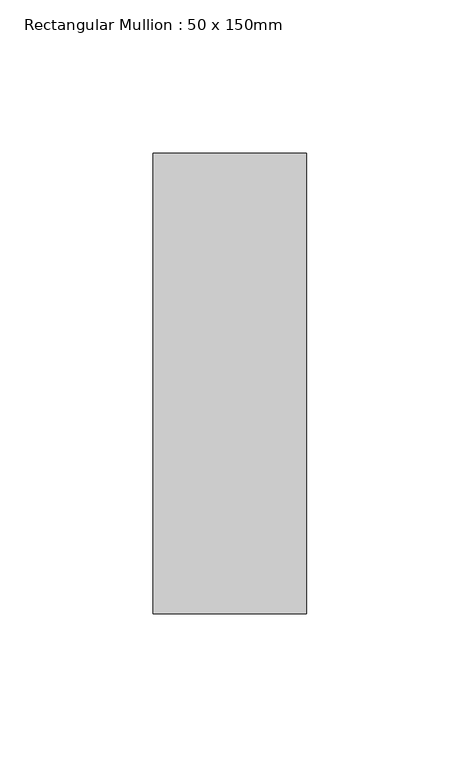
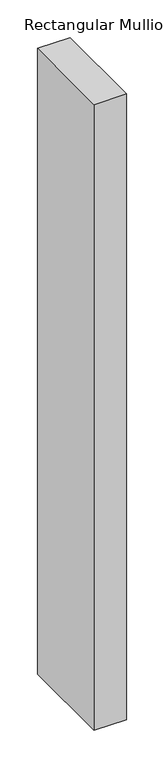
"""IFC4 building model written with IfcOpenShell, lengths in millimetres: member geometry, Rectangular Mullion : 50 x 150mm."""

import ifcopenshell
import ifcopenshell.guid

model = None  # the IFC model being written
_history = None  # IfcOwnerHistory: only IFC2X3 demands one
_inside = {}  # id of a spatial element -> (the spatial element, [elements in it])
_under = {}  # id of a project, library or spatial element -> (it, [spatial elements below it])
_declared = {}  # id of a project -> (the project, [libraries it declares])
_typed = {}  # id of a type object -> (the type object, [elements of that type])
_made_of = {}  # id of a material, layer set ... -> (it, [elements and type objects made of it])


def new_model(schema):
    """Start an empty IFC model of exactly this schema.

    Asked for "IFC4X3", IfcOpenShell would pick the latest addendum, in which some entities
    have other attributes; the version numbers below select the first issue.
    IFC2X3 requires an IfcOwnerHistory on every rooted entity: one is made here for all.
    """
    global model, _history
    if schema == "IFC4X3":
        model = ifcopenshell.file(schema_version=(4, 3, 0, 0))
    else:
        model = ifcopenshell.file(schema=schema)
    _inside.clear()
    _under.clear()
    _declared.clear()
    _typed.clear()
    _made_of.clear()
    _history = None
    if model.schema == "IFC2X3":
        org = make("IfcOrganization", Name="unknown")
        user = make(
            "IfcPersonAndOrganization",
            ThePerson=make("IfcPerson", FamilyName="unknown"),
            TheOrganization=org,
        )
        app = make(
            "IfcApplication",
            ApplicationDeveloper=org,
            Version="unknown",
            ApplicationFullName="unknown",
            ApplicationIdentifier="unknown",
        )
        _history = make(
            "IfcOwnerHistory",
            OwningUser=user,
            OwningApplication=app,
            ChangeAction="ADDED",
            CreationDate=0,
        )
    return model


def make(cls, **values):
    """One entity of the class cls with the attributes given. An attribute that is None is left unset."""
    return model.create_entity(
        cls, **{name: value for name, value in values.items() if value is not None}
    )


def rooted(cls, **values):
    """An entity with a GlobalId (a new one), such as an element, a storey or a relation."""
    return make(cls, GlobalId=ifcopenshell.guid.new(), OwnerHistory=_history, **values)


def si_unit(unit_type, name, prefix=None):
    """IfcSIUnit, for example si_unit("LENGTHUNIT", "METRE", prefix="MILLI")."""
    return make("IfcSIUnit", UnitType=unit_type, Prefix=prefix, Name=name)


def assignment(units):
    """IfcUnitAssignment: the units of a project."""
    return None if units is None else make("IfcUnitAssignment", Units=units)


def point(xyz):
    """IfcCartesianPoint."""
    return None if xyz is None else make("IfcCartesianPoint", Coordinates=xyz)


def direction(xyz):
    """IfcDirection."""
    return None if xyz is None else make("IfcDirection", DirectionRatios=xyz)


def frame(location, z_axis=None, x_axis=None):
    """IfcAxis2Placement3D, a coordinate frame: its origin and axes. An axis left out is left unset."""
    return make(
        "IfcAxis2Placement3D",
        Location=point(location),
        Axis=direction(z_axis),
        RefDirection=direction(x_axis),
    )


def origin():
    """The frame at (0, 0, 0) with its axes left unset."""
    return frame((0.0, 0.0, 0.0))


def place(relative_to, where):
    """IfcLocalPlacement: puts the frame where relative to a parent placement (None: the world)."""
    return make(
        "IfcLocalPlacement", PlacementRelTo=relative_to, RelativePlacement=where
    )


def context(
    kind, dimensions, precision=None, world=None, true_north=None, identifier=None
):
    """IfcGeometricRepresentationContext, for example the 3D "Model" context."""
    return make(
        "IfcGeometricRepresentationContext",
        ContextIdentifier=identifier,
        ContextType=kind,
        CoordinateSpaceDimension=dimensions,
        Precision=precision,
        WorldCoordinateSystem=world,
        TrueNorth=true_north,
    )


def project(units=None, contexts=None):
    """IfcProject with its units and contexts."""
    return rooted(
        "IfcProject",
        Name="project",
        RepresentationContexts=contexts,
        UnitsInContext=assignment(units),
    )


def spatial(cls, under=None, at=None, **own):
    """A site, building, storey or space (cls), placed at a placement, below another one or the project."""
    s = rooted(cls, ObjectPlacement=at, **own)
    if under is not None:
        _under.setdefault(under.id(), (under, []))[1].append(s)
    return s


def polyline(points):
    """IfcPolyline through the points."""
    return make("IfcPolyline", Points=[point(p) for p in points])


def outline(outer, holes=None, kind="AREA"):
    """IfcArbitraryClosedProfileDef: a profile drawn as a closed curve; with holes, ...WithVoids."""
    if holes is None:
        return make("IfcArbitraryClosedProfileDef", ProfileType=kind, OuterCurve=outer)
    return make(
        "IfcArbitraryProfileDefWithVoids",
        ProfileType=kind,
        OuterCurve=outer,
        InnerCurves=holes,
    )


def extrude(swept, where, along, depth):
    """IfcExtrudedAreaSolid: the profile swept, set in the frame where, extruded along a direction by depth."""
    return make(
        "IfcExtrudedAreaSolid",
        SweptArea=swept,
        Position=where,
        ExtrudedDirection=direction(along),
        Depth=depth,
    )


def shape(context_of_items, identifier, shape_type, items):
    """IfcShapeRepresentation: the items that make up one representation, for example the "Body"."""
    return make(
        "IfcShapeRepresentation",
        ContextOfItems=context_of_items,
        RepresentationIdentifier=identifier,
        RepresentationType=shape_type,
        Items=items,
    )


def source(mapping_origin, context_of_items, identifier, shape_type, items):
    """IfcRepresentationMap: a shape defined once, which mapped items show again and again."""
    return make(
        "IfcRepresentationMap",
        MappingOrigin=mapping_origin,
        MappedRepresentation=shape(context_of_items, identifier, shape_type, items),
    )


def transform(
    local_origin,
    x_axis=None,
    y_axis=None,
    z_axis=None,
    scale=None,
    scale2=None,
    scale3=None,
    uniform=True,
):
    """IfcCartesianTransformationOperator3D, or its non-uniform kind. x_axis, y_axis, z_axis: its Axis1, 2, 3."""
    if uniform:
        return make(
            "IfcCartesianTransformationOperator3D",
            Axis1=direction(x_axis),
            Axis2=direction(y_axis),
            LocalOrigin=point(local_origin),
            Scale=scale,
            Axis3=direction(z_axis),
        )
    return make(
        "IfcCartesianTransformationOperator3DnonUniform",
        Axis1=direction(x_axis),
        Axis2=direction(y_axis),
        LocalOrigin=point(local_origin),
        Scale=scale,
        Axis3=direction(z_axis),
        Scale2=scale2,
        Scale3=scale3,
    )


def mapped(mapping_source, mapping_target):
    """IfcMappedItem: shows the shape of a source again, moved by a transform."""
    return make(
        "IfcMappedItem", MappingSource=mapping_source, MappingTarget=mapping_target
    )


def made_of(thing, what):
    """Note that an element or type object is made of a material, layer set ...; save() writes the relation."""
    if what is not None:
        _made_of.setdefault(what.id(), (what, []))[1].append(thing)
    return thing


def element(
    cls,
    number,
    at=None,
    inside=None,
    cuts=None,
    type_object=None,
    material=None,
    context=None,
    identifier="Body",
    shape_type=None,
    held_by="IfcProductDefinitionShape",
    body=None,
    shapes=None,
    **own,
):
    """One element of the class cls, such as IfcWall. Its Tag is "e" and its number.

    at: its placement. inside: the storey or other place that contains it. cuts: it is an
    opening in that element (IfcRelVoidsElement). A single representation is given by context,
    identifier, shape_type and body (its items); several are given by shapes. held_by: the class
    of the entity that holds the representations. save() writes the other relations.
    """
    e = rooted(cls, Tag="e%d" % number, ObjectPlacement=at, **own)
    if body is not None:
        shapes = [shape(context, identifier, shape_type, body)]
    if shapes is not None:
        e.Representation = make(held_by, Representations=shapes)
    if inside is not None:
        _inside.setdefault(inside.id(), (inside, []))[1].append(e)
    if cuts is not None:
        rooted(
            "IfcRelVoidsElement", RelatingBuildingElement=cuts, RelatedOpeningElement=e
        )
    if type_object is not None:
        _typed.setdefault(type_object.id(), (type_object, []))[1].append(e)
    return made_of(e, material)


def aggregate(whole, parts):
    """IfcRelAggregates: a whole, such as a stair, and the parts it consists of."""
    return rooted("IfcRelAggregates", RelatingObject=whole, RelatedObjects=parts)


def save(model, path):
    """Write the relations noted so far, then the file.

    IfcRelAggregates (storeys below a building ...), IfcRelContainedInSpatialStructure (elements
    in a storey), IfcRelDefinesByType, IfcRelAssociatesMaterial and IfcRelDeclares: one each for
    every whole, place, type object, material and project.
    """
    for whole, parts in _under.values():
        aggregate(whole, parts)
    for where, things in _inside.values():
        rooted(
            "IfcRelContainedInSpatialStructure",
            RelatedElements=things,
            RelatingStructure=where,
        )
    for kind, things in _typed.values():
        rooted("IfcRelDefinesByType", RelatedObjects=things, RelatingType=kind)
    for what, things in _made_of.values():
        rooted("IfcRelAssociatesMaterial", RelatedObjects=things, RelatingMaterial=what)
    for by, libraries in _declared.values():
        rooted("IfcRelDeclares", RelatingContext=by, RelatedDefinitions=libraries)
    model.write(path)


def rectangular_mullion_50_x_150mm_4c046977(model_context):
    return source(origin(), model_context, "Body", "SweptSolid", [
        extrude(outline(polyline([(0.0, 75.0), (0.0, -75.0), (-50.0, -75.0), (-50.0, 75.0), (0.0, 75.0)])), frame((0.0, 0.0, -1015.0), z_axis=(0.0, 0.0, 1.0), x_axis=(1.0, 0.0, 0.0)), (0.0, 0.0, 1.0), 1015.0),
    ])


if __name__ == "__main__":
    model = new_model("IFC4")
    model_context = context("Model", 3, world=origin())
    ifc_project = project(units=[si_unit("LENGTHUNIT", "METRE", prefix="MILLI")], contexts=[model_context])
    site = spatial("IfcSite", under=ifc_project)
    building = spatial("IfcBuilding", under=site)
    placement = place(None, origin())
    rectangular_mullion_50_x_150mm_shape = rectangular_mullion_50_x_150mm_4c046977(model_context)
    element("IfcMember", 1, ObjectType="Rectangular Mullion : 50 x 150mm", at=placement, inside=building, context=model_context, shape_type="MappedRepresentation", body=[
        mapped(rectangular_mullion_50_x_150mm_shape, transform((0.0, 0.0, 0.0), x_axis=(1.0, 0.0, 0.0), y_axis=(0.0, 1.0, 0.0), z_axis=(0.0, 0.0, 1.0))),
    ])
    save(model, "model.ifc")
